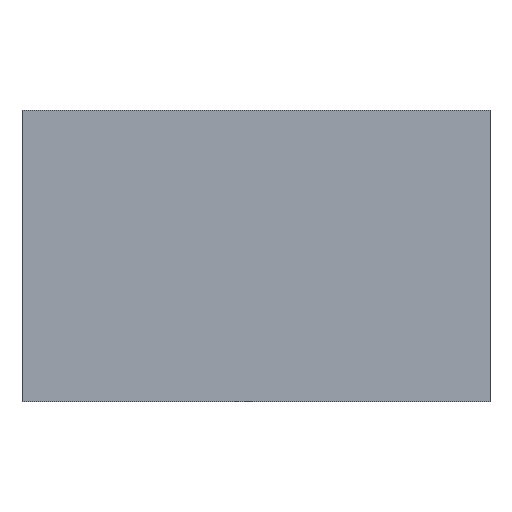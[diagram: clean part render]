
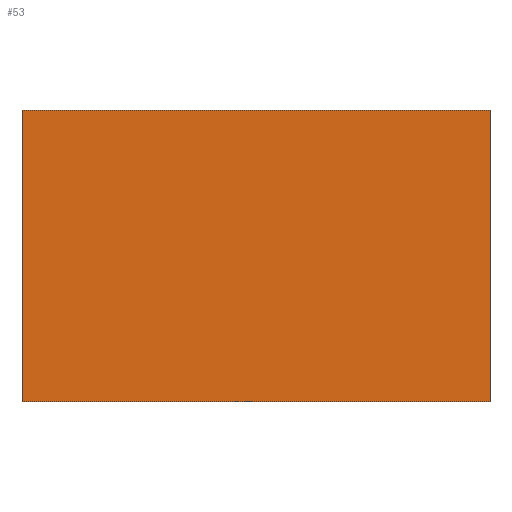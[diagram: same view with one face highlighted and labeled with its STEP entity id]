
A CAD part, front view. The second image highlights one B-rep face of the part: STEP entity #53.
In plain terms, the highlighted planar face has unit normal (0, -1, 0).
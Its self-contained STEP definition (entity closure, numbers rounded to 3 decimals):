
#1 = DIRECTION ( 'NONE',  ( 1., 0., 0. ) ) ;
#43 = ORIENTED_EDGE ( 'NONE', *, *, #72, .F. ) ;
#44 = ORIENTED_EDGE ( 'NONE', *, *, #201, .T. ) ;
#45 = ORIENTED_EDGE ( 'NONE', *, *, #54, .F. ) ;
#47 = EDGE_CURVE ( 'NONE', #193, #198, #343, .T. ) ;
#53 = ADVANCED_FACE ( 'NONE', ( #399 ), #292, .F. ) ;
#54 = EDGE_CURVE ( 'NONE', #193, #113, #262, .T. ) ;
#72 = EDGE_CURVE ( 'NONE', #113, #132, #394, .T. ) ;
#113 = VERTEX_POINT ( 'NONE', #304 ) ;
#131 = EDGE_LOOP ( 'NONE', ( #44, #43, #45, #170 ) ) ;
#132 = VERTEX_POINT ( 'NONE', #226 ) ;
#170 = ORIENTED_EDGE ( 'NONE', *, *, #47, .T. ) ;
#193 = VERTEX_POINT ( 'NONE', #417 ) ;
#198 = VERTEX_POINT ( 'NONE', #436 ) ;
#201 = EDGE_CURVE ( 'NONE', #198, #132, #369, .T. ) ;
#226 = CARTESIAN_POINT ( 'NONE',  ( 0., -6., 0. ) ) ;
#262 = LINE ( 'NONE', #270, #269 ) ;
#268 = DIRECTION ( 'NONE',  ( 1., 0., 0. ) ) ;
#269 = VECTOR ( 'NONE', #268, 1000. ) ;
#270 = CARTESIAN_POINT ( 'NONE',  ( 0., -6., 2.8 ) ) ;
#286 = DIRECTION ( 'NONE',  ( 0., 0., -1. ) ) ;
#287 = VECTOR ( 'NONE', #286, 1000. ) ;
#292 = PLANE ( 'NONE',  #344 ) ;
#304 = CARTESIAN_POINT ( 'NONE',  ( 0., -6., 2.8 ) ) ;
#342 = CARTESIAN_POINT ( 'NONE',  ( -4.5, -6., 2.8 ) ) ;
#343 = LINE ( 'NONE', #342, #378 ) ;
#344 = AXIS2_PLACEMENT_3D ( 'NONE', #348, #347, #346 ) ;
#346 = DIRECTION ( 'NONE',  ( -1., 0., 0. ) ) ;
#347 = DIRECTION ( 'NONE',  ( 0., 1., 0. ) ) ;
#348 = CARTESIAN_POINT ( 'NONE',  ( 0., -6., 2.8 ) ) ;
#367 = VECTOR ( 'NONE', #1, 1000. ) ;
#368 = CARTESIAN_POINT ( 'NONE',  ( 0., -6., 0. ) ) ;
#369 = LINE ( 'NONE', #368, #367 ) ;
#377 = DIRECTION ( 'NONE',  ( 0., 0., -1. ) ) ;
#378 = VECTOR ( 'NONE', #377, 1000. ) ;
#393 = CARTESIAN_POINT ( 'NONE',  ( 0., -6., 2.8 ) ) ;
#394 = LINE ( 'NONE', #393, #287 ) ;
#399 = FACE_OUTER_BOUND ( 'NONE', #131, .T. ) ;
#417 = CARTESIAN_POINT ( 'NONE',  ( -4.5, -6., 2.8 ) ) ;
#436 = CARTESIAN_POINT ( 'NONE',  ( -4.5, -6., 0. ) ) ;
